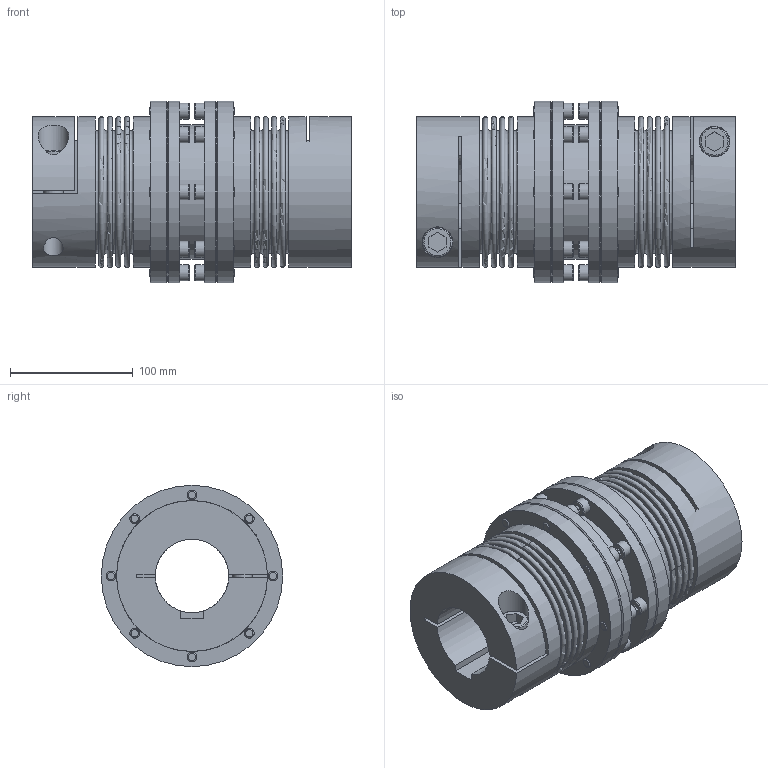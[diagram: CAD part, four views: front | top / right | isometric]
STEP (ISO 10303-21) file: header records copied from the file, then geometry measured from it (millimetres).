
FILE_DESCRIPTION(/* description */ ('STEP AP203'),/* implementation_level */ '2;1');
FILE_NAME(/* name */ 'C:\Diequa Files\DieQua Coupling\LB\STP\LB.500.L.#.#.stp',/* time_stamp */ '2019-05-02T10:19:19-05:00',/* author */ ('DiequaCAD'),/* organization */ (''),/* preprocessor_version */ 'ST-DEVELOPER v18',/* originating_system */ 'Autodesk Inventor 2020',/* authorisation */ ' ');
FILE_SCHEMA (('AUTOMOTIVE_DESIGN { 1 0 10303 214 3 1 1 }'));
Length unit declared in the file: millimetre
Products named in the file (1): ZA_500_60_PFN_60_PFN_4
Bounding box: 260 x 148 x 148 mm (x, y, z)
Volume: 1832921.9 mm3; surface area: 345255 mm2
Topology: 1 solids, 1 shells, 318 faces, 830 edges, 600 vertices
Faces by surface type: plane 218, cylinder 44, torus 36, cone 20
Full cylindrical faces by diameter (mm): 13 x16, 16 x4, 24 x2, 25 x2, 60 x2, 88 x1, 90 x2, 100 x2, 110 x1, 123 x4, 148 x4
Entity records: 19379 total; most frequent: CARTESIAN_POINT 11069, DIRECTION 1778, ORIENTED_EDGE 1660, EDGE_CURVE 830, AXIS2_PLACEMENT_3D 667, VERTEX_POINT 600, LINE 444, VECTOR 444
